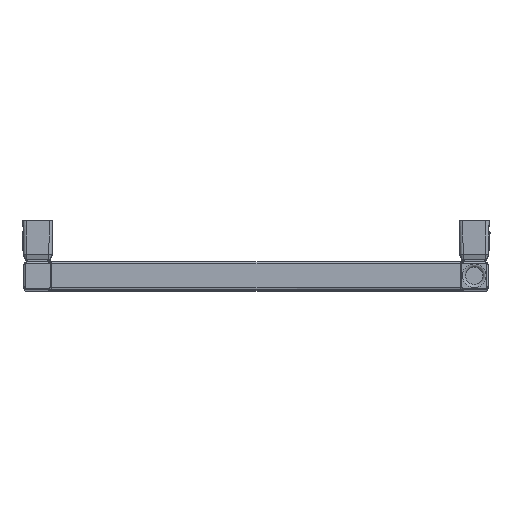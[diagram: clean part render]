
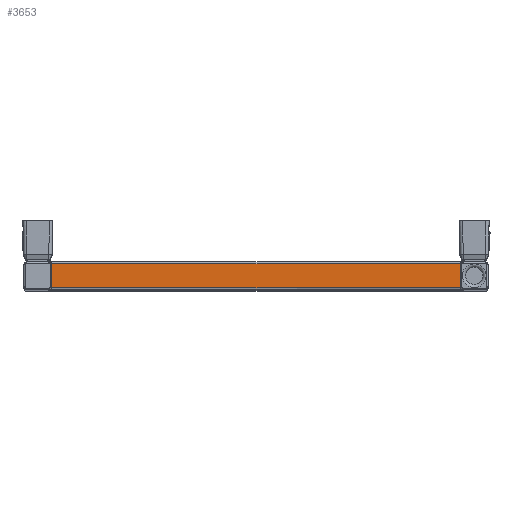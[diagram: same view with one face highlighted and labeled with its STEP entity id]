
A CAD part, top view. The second image highlights one B-rep face of the part: STEP entity #3653.
In plain terms, the highlighted planar face has unit normal (0, 0, 1).
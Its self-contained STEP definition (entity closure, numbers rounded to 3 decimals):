
#3578=CARTESIAN_POINT('',(0.0,-13.,915.0));
#3579=DIRECTION('',(0.0,0.0,1.0));
#3580=DIRECTION('',(1.0,0.0,0.0));
#3581=AXIS2_PLACEMENT_3D('',#3578,#3579,#3580);
#3582=PLANE('',#3581);
#3583=CARTESIAN_POINT('',(220.172,13.,915.0));
#3584=VERTEX_POINT('',#3583);
#3585=CARTESIAN_POINT('',(220.,12.,915.0));
#3586=VERTEX_POINT('',#3585);
#3587=CARTESIAN_POINT('',(223.,12.,915.0));
#3588=DIRECTION('',(0.0,0.0,1.0));
#3589=DIRECTION('',(0.0,1.0,0.0));
#3590=AXIS2_PLACEMENT_3D('',#3587,#3588,#3589);
#3591=CIRCLE('',#3590,3.);
#3592=EDGE_CURVE('',#3584,#3586,#3591,.T.);
#3593=ORIENTED_EDGE('',*,*,#3592,.F.);
#3594=CARTESIAN_POINT('',(-220.172,13.,915.0));
#3595=VERTEX_POINT('',#3594);
#3596=CARTESIAN_POINT('',(220.172,13.,915.0));
#3597=DIRECTION('',(-1.0,0.0,0.0));
#3598=VECTOR('',#3597,440.343);
#3599=LINE('',#3596,#3598);
#3600=EDGE_CURVE('',#3584,#3595,#3599,.T.);
#3601=ORIENTED_EDGE('',*,*,#3600,.T.);
#3602=CARTESIAN_POINT('',(-220.,12.,915.0));
#3603=VERTEX_POINT('',#3602);
#3604=CARTESIAN_POINT('',(-223.,12.,915.0));
#3605=DIRECTION('',(0.0,0.0,1.0));
#3606=DIRECTION('',(1.0,0.0,0.0));
#3607=AXIS2_PLACEMENT_3D('',#3604,#3605,#3606);
#3608=CIRCLE('',#3607,3.);
#3609=EDGE_CURVE('',#3603,#3595,#3608,.T.);
#3610=ORIENTED_EDGE('',*,*,#3609,.F.);
#3611=CARTESIAN_POINT('',(-220.,-12.,915.0));
#3612=VERTEX_POINT('',#3611);
#3613=CARTESIAN_POINT('',(-220.,-12.,915.0));
#3614=DIRECTION('',(0.0,1.0,0.0));
#3615=VECTOR('',#3614,24.);
#3616=LINE('',#3613,#3615);
#3617=EDGE_CURVE('',#3612,#3603,#3616,.T.);
#3618=ORIENTED_EDGE('',*,*,#3617,.F.);
#3619=CARTESIAN_POINT('',(-220.172,-13.,915.0));
#3620=VERTEX_POINT('',#3619);
#3621=CARTESIAN_POINT('',(-223.,-12.,915.0));
#3622=DIRECTION('',(0.0,0.0,1.0));
#3623=DIRECTION('',(0.0,-1.0,0.0));
#3624=AXIS2_PLACEMENT_3D('',#3621,#3622,#3623);
#3625=CIRCLE('',#3624,3.0);
#3626=EDGE_CURVE('',#3620,#3612,#3625,.T.);
#3627=ORIENTED_EDGE('',*,*,#3626,.F.);
#3628=CARTESIAN_POINT('',(220.172,-13.,915.0));
#3629=VERTEX_POINT('',#3628);
#3630=CARTESIAN_POINT('',(220.172,-13.,915.0));
#3631=DIRECTION('',(-1.0,0.0,0.0));
#3632=VECTOR('',#3631,440.343);
#3633=LINE('',#3630,#3632);
#3634=EDGE_CURVE('',#3629,#3620,#3633,.T.);
#3635=ORIENTED_EDGE('',*,*,#3634,.F.);
#3636=CARTESIAN_POINT('',(220.,-12.,915.0));
#3637=VERTEX_POINT('',#3636);
#3638=CARTESIAN_POINT('',(223.,-12.,915.0));
#3639=DIRECTION('',(0.0,0.0,1.0));
#3640=DIRECTION('',(-1.0,0.0,0.0));
#3641=AXIS2_PLACEMENT_3D('',#3638,#3639,#3640);
#3642=CIRCLE('',#3641,3.0);
#3643=EDGE_CURVE('',#3637,#3629,#3642,.T.);
#3644=ORIENTED_EDGE('',*,*,#3643,.F.);
#3645=CARTESIAN_POINT('',(220.,12.,915.0));
#3646=DIRECTION('',(0.0,-1.0,0.0));
#3647=VECTOR('',#3646,24.);
#3648=LINE('',#3645,#3647);
#3649=EDGE_CURVE('',#3586,#3637,#3648,.T.);
#3650=ORIENTED_EDGE('',*,*,#3649,.F.);
#3651=EDGE_LOOP('',(#3593,#3601,#3610,#3618,#3627,#3635,#3644,#3650));
#3652=FACE_OUTER_BOUND('',#3651,.T.);
#3653=ADVANCED_FACE('',(#3652),#3582,.T.);
